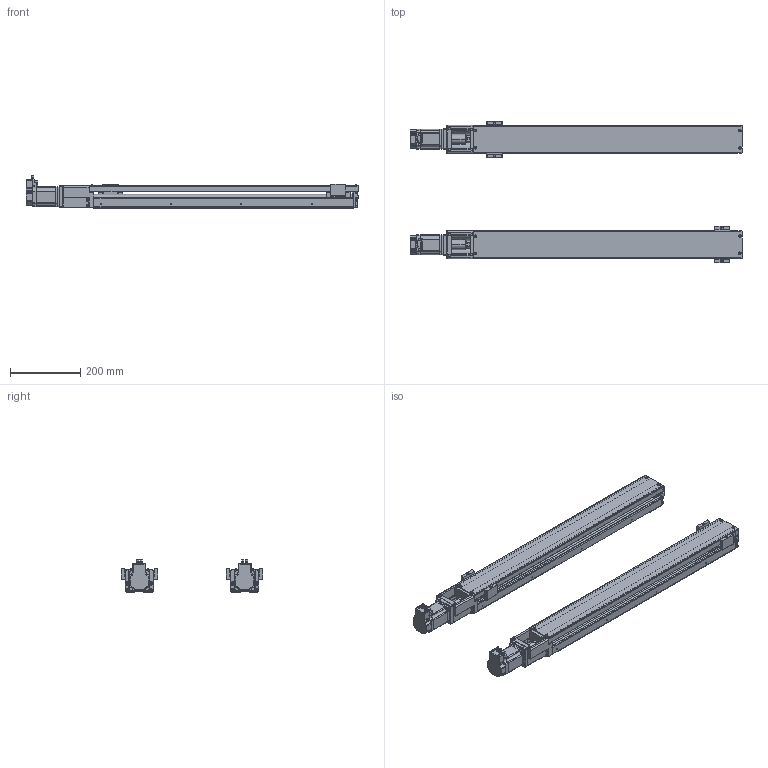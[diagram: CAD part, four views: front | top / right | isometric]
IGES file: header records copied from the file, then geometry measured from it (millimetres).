
Start section: IMSI TurboCAD v14.0
Global section: author: NULL; organization: NULL; date: 20111226.143206; units: millimetre
Bounding box: 945.01 x 404 x 91.47 mm (x, y, z)
Surface area: 1142087 mm2 (no closed solid volume)
Topology: 0 solids, 0 shells, 4724 faces, 23818 edges, 23756 vertices
Faces by surface type: revolution 2716, extrusion 1848, bspline 160
